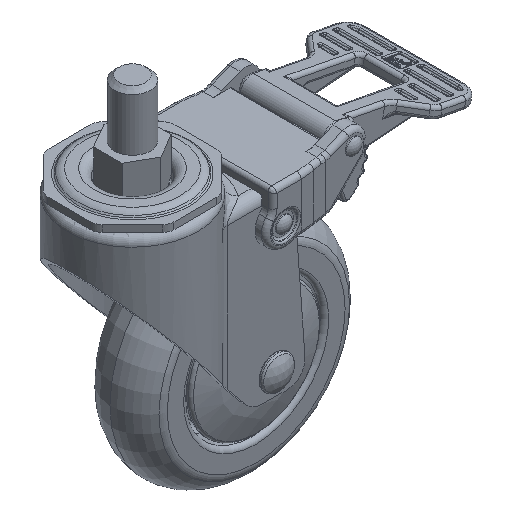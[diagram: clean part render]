
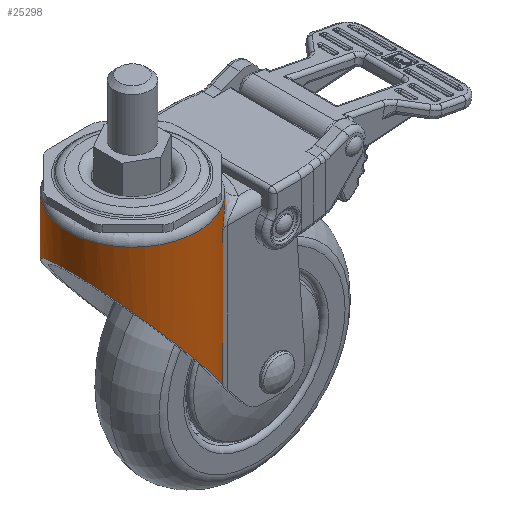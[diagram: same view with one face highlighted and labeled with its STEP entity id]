
A CAD part, isometric view. The second image highlights one B-rep face of the part: STEP entity #25298.
In plain terms, the highlighted cylindrical face has radius 29 mm (diameter 58 mm), a full revolution.
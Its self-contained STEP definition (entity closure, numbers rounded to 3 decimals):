
#443=ELLIPSE('',#28340,45.663,29.);
#1714=LINE('',#49720,#3275);
#1716=LINE('',#49932,#3277);
#3275=VECTOR('',#35575,59.639);
#3277=VECTOR('',#35593,59.639);
#3901=B_SPLINE_CURVE_WITH_KNOTS('',3,(#49797,#49798,#49799,#49800,#49801,
#49802,#49803,#49804,#49805,#49806,#49807,#49808,#49809,#49810),
 .UNSPECIFIED.,.F.,.F.,(4,2,2,2,2,2,4),(0.,3.172,6.345,
11.548,12.064,15.638,17.872),
 .UNSPECIFIED.);
#3902=B_SPLINE_CURVE_WITH_KNOTS('',3,(#49902,#49903,#49904,#49905,#49906,
#49907,#49908,#49909,#49910,#49911,#49912,#49913,#49914,#49915,#49916,#49917,
#49918,#49919,#49920,#49921,#49922,#49923,#49924,#49925,#49926,#49927,#49928,
#49929),.UNSPECIFIED.,.F.,.F.,(4,3,3,3,3,3,3,3,3,4),(0.,3.104,
4.68,8.022,9.875,12.603,13.405,
15.611,16.99,17.852),.UNSPECIFIED.);
#4585=CYLINDRICAL_SURFACE('',#28358,29.);
#4898=FACE_BOUND('',#8068,.T.);
#6249=FACE_OUTER_BOUND('',#8067,.T.);
#8067=EDGE_LOOP('',(#22083));
#8068=EDGE_LOOP('',(#22084,#22085,#22086,#22087,#22088,#22089));
#9896=CIRCLE('',#28309,29.);
#9919=CIRCLE('',#28359,29.);
#12030=VERTEX_POINT('',#49717);
#12031=VERTEX_POINT('',#49719);
#12032=VERTEX_POINT('',#49795);
#12033=VERTEX_POINT('',#49812);
#12034=VERTEX_POINT('',#49900);
#12035=VERTEX_POINT('',#49931);
#12069=VERTEX_POINT('',#50254);
#15412=EDGE_CURVE('',#12030,#12031,#1714,.T.);
#15416=EDGE_CURVE('',#12031,#12032,#3901,.T.);
#15417=EDGE_CURVE('',#12032,#12033,#9896,.T.);
#15421=EDGE_CURVE('',#12033,#12034,#3902,.T.);
#15422=EDGE_CURVE('',#12034,#12035,#1716,.T.);
#15460=EDGE_CURVE('',#12030,#12035,#443,.T.);
#15480=EDGE_CURVE('',#12069,#12069,#9919,.T.);
#22083=ORIENTED_EDGE('',*,*,#15480,.T.);
#22084=ORIENTED_EDGE('',*,*,#15417,.F.);
#22085=ORIENTED_EDGE('',*,*,#15416,.F.);
#22086=ORIENTED_EDGE('',*,*,#15412,.F.);
#22087=ORIENTED_EDGE('',*,*,#15460,.T.);
#22088=ORIENTED_EDGE('',*,*,#15422,.F.);
#22089=ORIENTED_EDGE('',*,*,#15421,.F.);
#25298=ADVANCED_FACE('',(#6249,#4898),#4585,.T.);
#28309=AXIS2_PLACEMENT_3D('',#49813,#35583,#35584);
#28340=AXIS2_PLACEMENT_3D('',#50214,#35662,#35663);
#28358=AXIS2_PLACEMENT_3D('',#50253,#35709,#35710);
#28359=AXIS2_PLACEMENT_3D('',#50255,#35711,#35712);
#35575=DIRECTION('',(0.,0.,1.));
#35583=DIRECTION('center_axis',(0.,0.,-1.));
#35584=DIRECTION('ref_axis',(1.,0.,0.));
#35593=DIRECTION('',(0.,0.,-1.));
#35662=DIRECTION('center_axis',(0.772,0.,0.635));
#35663=DIRECTION('ref_axis',(-0.635,0.,0.772));
#35709=DIRECTION('center_axis',(0.,0.,-1.));
#35710=DIRECTION('ref_axis',(-1.,0.,0.));
#35711=DIRECTION('center_axis',(0.,0.,-1.));
#35712=DIRECTION('ref_axis',(-1.,0.,0.));
#49717=CARTESIAN_POINT('',(-4.493,85.77,-74.889));
#49719=CARTESIAN_POINT('',(-4.493,85.77,-15.25));
#49720=CARTESIAN_POINT('',(-4.493,85.77,-74.889));
#49795=CARTESIAN_POINT('',(3.561,77.667,-5.75));
#49797=CARTESIAN_POINT('Ctrl Pts',(-4.493,85.77,-15.25));
#49798=CARTESIAN_POINT('Ctrl Pts',(-4.493,85.77,-14.192));
#49799=CARTESIAN_POINT('Ctrl Pts',(-4.253,85.612,-13.145));
#49800=CARTESIAN_POINT('Ctrl Pts',(-3.513,85.088,-11.314));
#49801=CARTESIAN_POINT('Ctrl Pts',(-3.017,84.723,-10.5));
#49802=CARTESIAN_POINT('Ctrl Pts',(-1.628,83.61,-8.639));
#49803=CARTESIAN_POINT('Ctrl Pts',(-0.66,82.748,-7.726));
#49804=CARTESIAN_POINT('Ctrl Pts',(0.381,81.663,-6.984));
#49805=CARTESIAN_POINT('Ctrl Pts',(0.475,81.564,-6.92));
#49806=CARTESIAN_POINT('Ctrl Pts',(1.216,80.77,-6.426));
#49807=CARTESIAN_POINT('Ctrl Pts',(1.855,80.017,-6.108));
#49808=CARTESIAN_POINT('Ctrl Pts',(2.843,78.715,-5.811));
#49809=CARTESIAN_POINT('Ctrl Pts',(3.211,78.197,-5.75));
#49810=CARTESIAN_POINT('Ctrl Pts',(3.561,77.667,-5.75));
#49812=CARTESIAN_POINT('',(3.561,45.682,-5.75));
#49813=CARTESIAN_POINT('Origin',(-20.63,61.675,-5.75));
#49900=CARTESIAN_POINT('',(-4.493,37.579,-15.25));
#49902=CARTESIAN_POINT('Ctrl Pts',(3.561,45.682,-5.75));
#49903=CARTESIAN_POINT('Ctrl Pts',(3.075,44.946,-5.75));
#49904=CARTESIAN_POINT('Ctrl Pts',(2.555,44.233,-5.866));
#49905=CARTESIAN_POINT('Ctrl Pts',(2.015,43.558,-6.082));
#49906=CARTESIAN_POINT('Ctrl Pts',(1.74,43.215,-6.191));
#49907=CARTESIAN_POINT('Ctrl Pts',(1.461,42.882,-6.326));
#49908=CARTESIAN_POINT('Ctrl Pts',(1.178,42.559,-6.484));
#49909=CARTESIAN_POINT('Ctrl Pts',(0.578,41.875,-6.819));
#49910=CARTESIAN_POINT('Ctrl Pts',(-0.036,41.24,
-7.254));
#49911=CARTESIAN_POINT('Ctrl Pts',(-0.643,40.662,
-7.79));
#49912=CARTESIAN_POINT('Ctrl Pts',(-0.98,40.342,
-8.087));
#49913=CARTESIAN_POINT('Ctrl Pts',(-1.315,40.039,-8.415));
#49914=CARTESIAN_POINT('Ctrl Pts',(-1.644,39.754,-8.773));
#49915=CARTESIAN_POINT('Ctrl Pts',(-2.128,39.334,-9.301));
#49916=CARTESIAN_POINT('Ctrl Pts',(-2.597,38.957,-9.892));
#49917=CARTESIAN_POINT('Ctrl Pts',(-3.018,38.635,-10.559));
#49918=CARTESIAN_POINT('Ctrl Pts',(-3.142,38.54,-10.755));
#49919=CARTESIAN_POINT('Ctrl Pts',(-3.262,38.45,-10.958));
#49920=CARTESIAN_POINT('Ctrl Pts',(-3.377,38.365,-11.167));
#49921=CARTESIAN_POINT('Ctrl Pts',(-3.693,38.131,-11.744));
#49922=CARTESIAN_POINT('Ctrl Pts',(-3.973,37.935,-12.38));
#49923=CARTESIAN_POINT('Ctrl Pts',(-4.172,37.798,-13.059));
#49924=CARTESIAN_POINT('Ctrl Pts',(-4.296,37.712,-13.483));
#49925=CARTESIAN_POINT('Ctrl Pts',(-4.391,37.648,-13.93));
#49926=CARTESIAN_POINT('Ctrl Pts',(-4.443,37.612,-14.388));
#49927=CARTESIAN_POINT('Ctrl Pts',(-4.477,37.59,-14.674));
#49928=CARTESIAN_POINT('Ctrl Pts',(-4.493,37.579,-14.963));
#49929=CARTESIAN_POINT('Ctrl Pts',(-4.493,37.579,-15.25));
#49931=CARTESIAN_POINT('',(-4.493,37.579,-74.889));
#49932=CARTESIAN_POINT('',(-4.493,37.579,-15.25));
#50214=CARTESIAN_POINT('Origin',(-20.63,61.675,-55.261));
#50253=CARTESIAN_POINT('Origin',(-20.63,61.675,-54.75));
#50254=CARTESIAN_POINT('',(8.37,61.675,-5.25));
#50255=CARTESIAN_POINT('Origin',(-20.63,61.675,-5.25));
